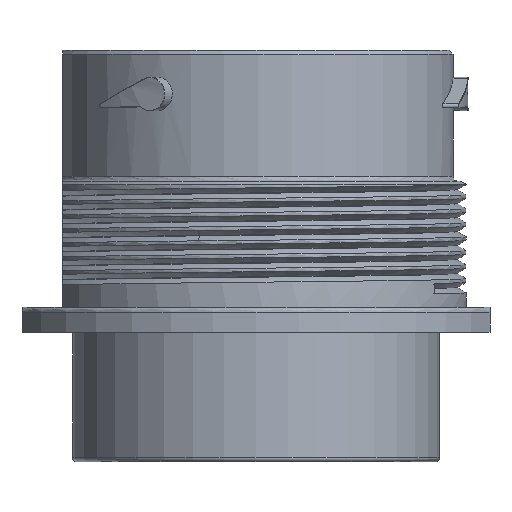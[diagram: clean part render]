
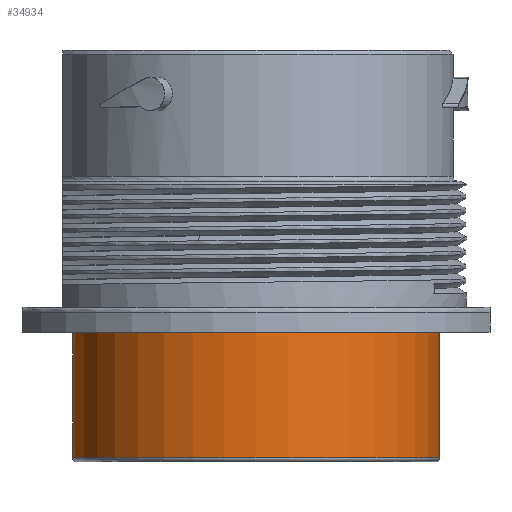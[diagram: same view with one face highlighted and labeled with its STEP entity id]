
A CAD part, left-side view. The second image highlights one B-rep face of the part: STEP entity #34934.
In plain terms, the highlighted cylindrical face has radius 18.669 mm (diameter 37.338 mm), a partial arc.
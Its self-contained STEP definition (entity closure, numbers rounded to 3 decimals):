
#6297=CARTESIAN_POINT('',(0.,0.,-28.702));
#6298=DIRECTION('',(0.,0.,1.));
#6299=DIRECTION('',(0.,1.,0.));
#6300=AXIS2_PLACEMENT_3D('',#6297,#6298,#6299);
#6315=CARTESIAN_POINT('',(0.,0.,-41.478));
#6316=DIRECTION('',(0.,0.,-1.));
#6317=DIRECTION('',(0.,-1.,0.));
#6318=AXIS2_PLACEMENT_3D('',#6315,#6316,#6317);
#6320=CARTESIAN_POINT('',(0.,0.,-39.675));
#6321=DIRECTION('',(0.,0.,-1.));
#6322=DIRECTION('',(-0.027,1.,0.));
#6323=AXIS2_PLACEMENT_3D('',#6320,#6321,#6322);
#6325=DIRECTION('',(0.,0.,1.));
#6326=VECTOR('',#6325,7.62);
#6327=CARTESIAN_POINT('',(-0.503,18.662,-39.675));
#6328=LINE('',#6327,#6326);
#6329=CARTESIAN_POINT('',(0.,0.,-32.055));
#6330=DIRECTION('',(0.,0.,1.));
#6331=DIRECTION('',(0.,1.,0.));
#6332=AXIS2_PLACEMENT_3D('',#6329,#6330,#6331);
#9403=DIRECTION('',(0.,0.,1.));
#9404=VECTOR('',#9403,12.776);
#9405=CARTESIAN_POINT('',(0.,-18.669,-41.478));
#9406=LINE('',#9405,#9404);
#9407=DIRECTION('',(0.,0.,1.));
#9408=VECTOR('',#9407,3.353);
#9409=CARTESIAN_POINT('',(0.,18.669,-32.055));
#9410=LINE('',#9409,#9408);
#9425=DIRECTION('',(0.,0.,-1.));
#9426=VECTOR('',#9425,1.803);
#9427=CARTESIAN_POINT('',(0.,18.669,-39.675));
#9428=LINE('',#9427,#9426);
#15266=CARTESIAN_POINT('',(0.,18.669,-28.702));
#15267=CARTESIAN_POINT('',(0.,-18.669,-28.702));
#15268=VERTEX_POINT('',#15266);
#15269=VERTEX_POINT('',#15267);
#15972=CARTESIAN_POINT('',(0.,18.669,-32.055));
#15973=CARTESIAN_POINT('',(-0.503,18.662,-32.055));
#15974=VERTEX_POINT('',#15972);
#15975=VERTEX_POINT('',#15973);
#15979=CARTESIAN_POINT('',(-0.503,18.662,-39.675));
#15981=VERTEX_POINT('',#15979);
#18050=CARTESIAN_POINT('',(0.,18.669,-39.675));
#18051=VERTEX_POINT('',#18050);
#18064=CARTESIAN_POINT('',(0.,-18.669,-41.478));
#18065=CARTESIAN_POINT('',(0.,18.669,-41.478));
#18066=VERTEX_POINT('',#18064);
#18067=VERTEX_POINT('',#18065);
#34912=CARTESIAN_POINT('',(0.,0.,-41.659));
#34913=DIRECTION('',(0.,0.,1.));
#34914=DIRECTION('',(0.,1.,0.));
#34915=AXIS2_PLACEMENT_3D('',#34912,#34913,#34914);
#34916=CYLINDRICAL_SURFACE('',#34915,18.669);
#34918=ORIENTED_EDGE('',*,*,#34917,.T.);
#34920=ORIENTED_EDGE('',*,*,#34919,.F.);
#34922=ORIENTED_EDGE('',*,*,#34921,.F.);
#34924=ORIENTED_EDGE('',*,*,#34923,.T.);
#34926=ORIENTED_EDGE('',*,*,#34925,.F.);
#34928=ORIENTED_EDGE('',*,*,#34927,.T.);
#34929=ORIENTED_EDGE('',*,*,#34905,.T.);
#34931=ORIENTED_EDGE('',*,*,#34930,.F.);
#34932=EDGE_LOOP('',(#34918,#34920,#34922,#34924,#34926,#34928,#34929,#34931));
#34933=FACE_OUTER_BOUND('',#34932,.F.);
#34934=ADVANCED_FACE('',(#34933),#34916,.T.);
#6301=CIRCLE('',#6300,18.669);
#6319=CIRCLE('',#6318,18.669);
#6324=CIRCLE('',#6323,18.669);
#6333=CIRCLE('',#6332,18.669);
#34905=EDGE_CURVE('',#15268,#15269,#6301,.T.);
#34917=EDGE_CURVE('',#18066,#18067,#6319,.T.);
#34919=EDGE_CURVE('',#18051,#18067,#9428,.T.);
#34921=EDGE_CURVE('',#15981,#18051,#6324,.T.);
#34923=EDGE_CURVE('',#15981,#15975,#6328,.T.);
#34925=EDGE_CURVE('',#15974,#15975,#6333,.T.);
#34927=EDGE_CURVE('',#15974,#15268,#9410,.T.);
#34930=EDGE_CURVE('',#18066,#15269,#9406,.T.);
